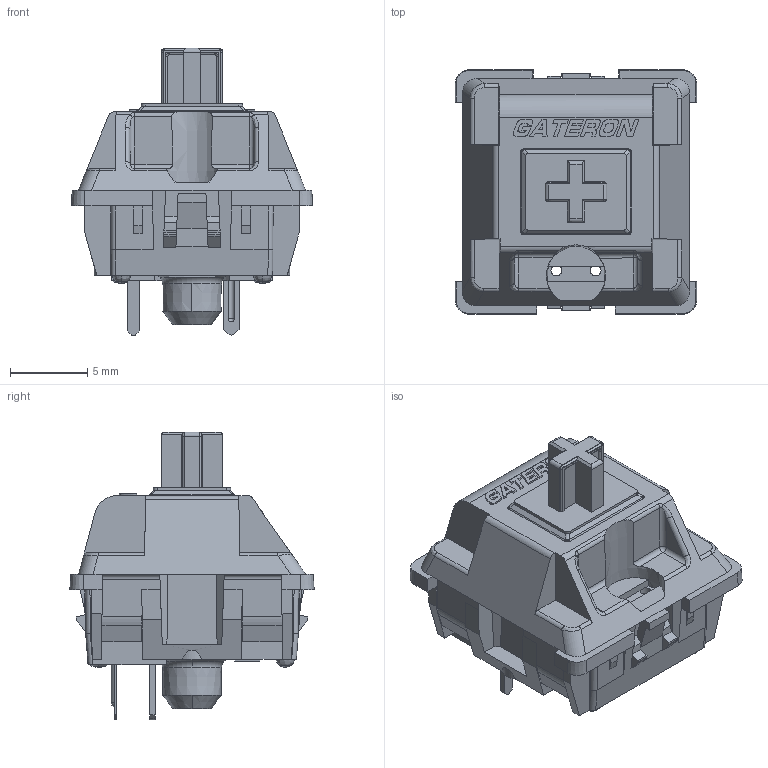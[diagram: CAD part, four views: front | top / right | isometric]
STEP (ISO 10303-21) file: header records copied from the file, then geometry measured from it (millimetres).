
FILE_DESCRIPTION(/* description */ (''),/* implementation_level */ '2;1');
FILE_NAME(/* name */ 'KS-3A10B060NN-X.stp',/* time_stamp */ '2021-10-15T13:47:56+08:00',/* author */ (''),/* organization */ (''),/* preprocessor_version */ 'ST-DEVELOPER v11',/* originating_system */ 'SIEMENS UGS NX 6.0',/* authorisation */ '');
FILE_SCHEMA (('CONFIG_CONTROL_DESIGN'));
Length unit declared in the file: millimetre
Products named in the file (1): RD-05E35zu19
Bounding box: 15.6 x 15.8 x 18.6 mm (x, y, z)
Volume: 1717.2 mm3; surface area: 1332.4 mm2
Topology: 1 solids, 1 shells, 600 faces, 1658 edges, 1077 vertices
Faces by surface type: plane 391, cylinder 105, extrusion 45, bspline 30, sphere 12, cone 9, torus 8
Entity records: 19725 total; most frequent: CARTESIAN_POINT 4565, ORIENTED_EDGE 3300, DIRECTION 2887, EDGE_CURVE 1650, VECTOR 1179, LINE 1134, VERTEX_POINT 1077, AXIS2_PLACEMENT_3D 854
